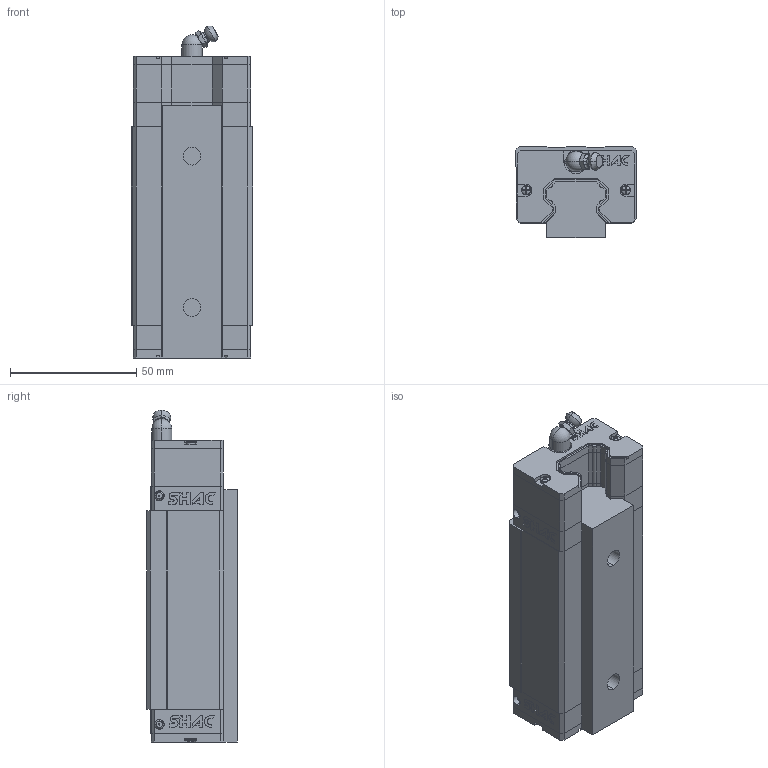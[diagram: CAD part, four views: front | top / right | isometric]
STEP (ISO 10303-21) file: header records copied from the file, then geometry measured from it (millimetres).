
FILE_DESCRIPTION (( 'STEP AP214' ), '1' );
FILE_NAME ('STP_GHL25HA_(E2)自润式_(R)上锁式_刮油片＋防尘条_100_100_1_GHL25HA_GHL25HA.step', '2020-06-27T02:29:03', ( 'IT Division' ), ( 'IT' ), 'SwSTEP 2.0', 'SolidWorks 2016', '' );
FILE_SCHEMA (( 'AUTOMOTIVE_DESIGN' ));
Length unit declared in the file: millimetre
Products named in the file (3): STP_GHL25HA_(E2)自润式_(R)上锁式_刮油片＋防尘条_100_100_1_GHL25HA_GHL25HA; STP_GHL25HA_(E2)自润式_(R)上锁式_刮油片＋防尘条_100_100_1_GHL25HA_GHL25HA_1; STP_GHL25HA_(E2)自润式_(R)上锁式_刮油片＋防尘条_100_100_1_GHL25HA_GHL25HA_2
Assembly tree (2 placements, depth 2):
  STP_GHL25HA_(E2)自润式_(R)上锁式_刮油片＋防尘条_100_100_1_GHL25HA_GHL25HA
    STP_GHL25HA_(E2)自润式_(R)上锁式_刮油片＋防尘条_100_100_1_GHL25HA_GHL25HA_1
    STP_GHL25HA_(E2)自润式_(R)上锁式_刮油片＋防尘条_100_100_1_GHL25HA_GHL25HA_2
Bounding box: 48 x 36 x 131.6 mm (x, y, z)
Volume: 170500.4 mm3; surface area: 47433.4 mm2
Topology: 8 solids, 8 shells, 856 faces, 2307 edges, 1514 vertices
Faces by surface type: plane 634, cylinder 156, cone 31, torus 25, sphere 10
Entity records: 29618 total; most frequent: CARTESIAN_POINT 4844, ORIENTED_EDGE 4590, DIRECTION 4442, EDGE_CURVE 2295, VECTOR 1798, LINE 1798, VERTEX_POINT 1512, AXIS2_PLACEMENT_3D 1322
